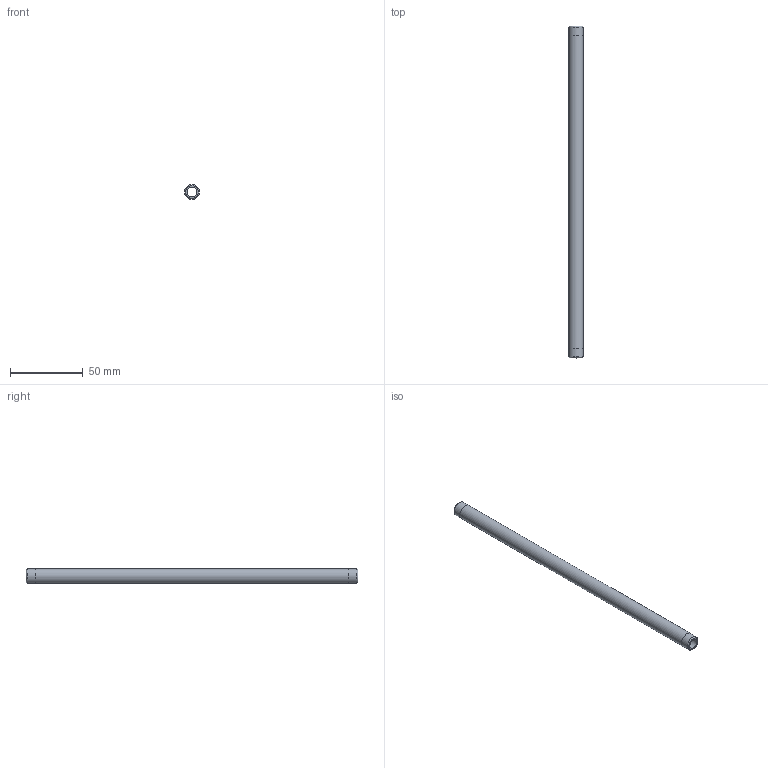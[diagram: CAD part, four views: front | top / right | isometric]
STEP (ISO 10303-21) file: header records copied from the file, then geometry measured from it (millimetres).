
FILE_DESCRIPTION(/* description */ (''),/* implementation_level */ '2;1');
FILE_NAME(/* name */ 'C:/Users/drich/Desktop/BPN18-9 v1.step',/* time_stamp */ '2020-01-03T14:49:42-06:00',/* author */ (''),/* organization */ (''),/* preprocessor_version */ 'ST-DEVELOPER v18',/* originating_system */ 'Autodesk Translation Framework v8.12.0.6',/* authorisation */ '');
FILE_SCHEMA (('AUTOMOTIVE_DESIGN { 1 0 10303 214 3 1 1 }'));
Length unit declared in the file: inch
Products named in the file (1): BPN18-9
Bounding box: 10.31 x 228.6 x 10.31 mm (x, y, z)
Volume: 10683.5 mm3; surface area: 12374.4 mm2
Topology: 1 solids, 1 shells, 10 faces, 24 edges, 18 vertices
Faces by surface type: cylinder 4, plane 4, cone 2
Full cylindrical faces by diameter (mm): 6.833 x1, 10.262 x2, 10.312 x1
Entity records: 360 total; most frequent: DIRECTION 64, CARTESIAN_POINT 53, ORIENTED_EDGE 48, AXIS2_PLACEMENT_3D 29, EDGE_CURVE 24, CIRCLE 18, VERTEX_POINT 18, EDGE_LOOP 14
